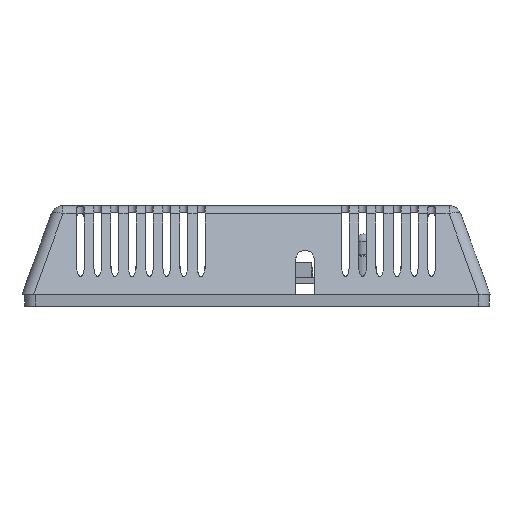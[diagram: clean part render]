
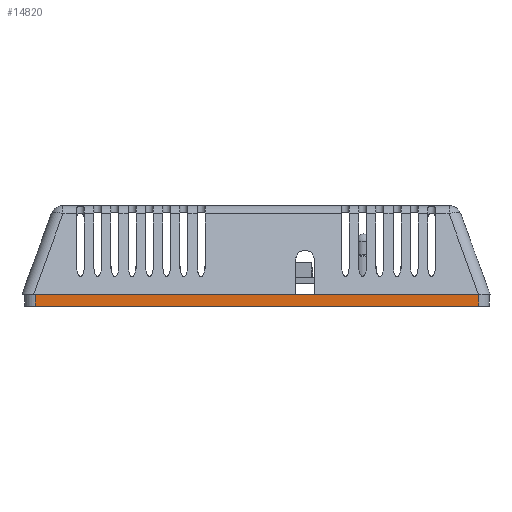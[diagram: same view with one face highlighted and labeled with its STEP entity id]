
A CAD part, left-side view. The second image highlights one B-rep face of the part: STEP entity #14820.
In plain terms, the highlighted planar face has unit normal (-1, 0, 0).
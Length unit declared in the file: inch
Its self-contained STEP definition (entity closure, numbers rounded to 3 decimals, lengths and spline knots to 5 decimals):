
#1277=FACE_OUTER_BOUND($,#2070,.T.);
#2070=EDGE_LOOP($,(#11205,#11206,#11207,#11208));
#3074=LINE($,#22178,#4751);
#3229=LINE($,#22577,#4906);
#3230=LINE($,#22581,#4907);
#3231=LINE($,#22582,#4908);
#4751=VECTOR($,#17856,4.5);
#4906=VECTOR($,#18189,0.12);
#4907=VECTOR($,#18194,0.12);
#4908=VECTOR($,#18195,4.5);
#6295=VERTEX_POINT($,#22175);
#6296=VERTEX_POINT($,#22177);
#6419=VERTEX_POINT($,#22576);
#6420=VERTEX_POINT($,#22580);
#8010=EDGE_CURVE($,#6296,#6295,#3074,.T.);
#8192=EDGE_CURVE($,#6419,#6296,#3229,.T.);
#8194=EDGE_CURVE($,#6420,#6295,#3230,.T.);
#8195=EDGE_CURVE($,#6420,#6419,#3231,.T.);
#11205=ORIENTED_EDGE($,*,*,#8010,.T.);
#11206=ORIENTED_EDGE($,*,*,#8194,.F.);
#11207=ORIENTED_EDGE($,*,*,#8195,.T.);
#11208=ORIENTED_EDGE($,*,*,#8192,.T.);
#14309=PLANE($,#15674);
#14820=ADVANCED_FACE($,(#1277),#14309,.T.);
#15674=AXIS2_PLACEMENT_3D($,#22579,#18192,#18193);
#17856=DIRECTION($,(0.,1.,0.));
#18189=DIRECTION($,(0.,0.,1.));
#18192=DIRECTION('center_axis',(-1.,0.,0.));
#18193=DIRECTION('ref_axis',(0.,0.,1.));
#18194=DIRECTION($,(0.,0.,1.));
#18195=DIRECTION($,(0.,-1.,0.));
#22175=CARTESIAN_POINT('',(9.13403,12.29273,1.46977));
#22177=CARTESIAN_POINT('',(9.13403,7.79273,1.46977));
#22178=CARTESIAN_POINT($,(9.13403,7.79273,1.46977));
#22576=CARTESIAN_POINT('',(9.13403,7.79273,1.34977));
#22577=CARTESIAN_POINT($,(9.13403,7.79273,1.34977));
#22579=CARTESIAN_POINT('Origin',(9.13403,7.79273,1.40977));
#22580=CARTESIAN_POINT('',(9.13403,12.29273,1.34977));
#22581=CARTESIAN_POINT($,(9.13403,12.29273,1.34977));
#22582=CARTESIAN_POINT($,(9.13403,12.29273,1.34977));
